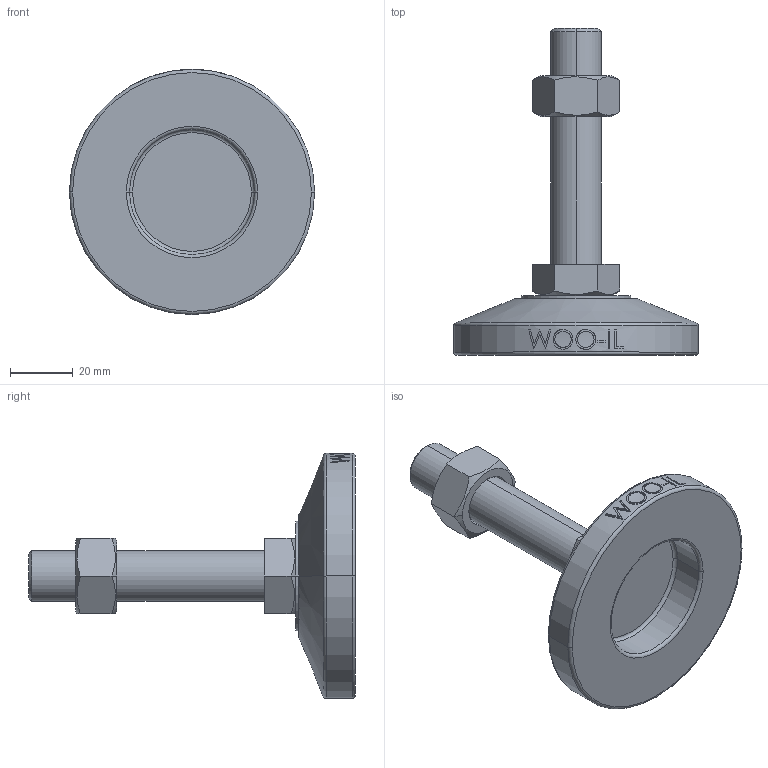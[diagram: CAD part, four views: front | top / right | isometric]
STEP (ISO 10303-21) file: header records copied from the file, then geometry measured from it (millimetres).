
FILE_DESCRIPTION (( 'STEP AP214' ), '1' );
FILE_NAME ('MFT78-M16-75.step', '2021-03-29T04:44:10', ( '' ), ( '' ), 'SwSTEP 2.0', 'SolidWorks 2019', '' );
FILE_SCHEMA (( 'AUTOMOTIVE_DESIGN' ));
Length unit declared in the file: millimetre
Products named in the file (2): MFT78-M16-75
Bounding box: 78 x 104 x 78 mm (x, y, z)
Volume: 80435.2 mm3; surface area: 21350.4 mm2
Topology: 3 solids, 3 shells, 106 faces, 243 edges, 154 vertices
Faces by surface type: plane 48, cylinder 18, bspline 16, cone 14, torus 10
Entity records: 4506 total; most frequent: CARTESIAN_POINT 2163, ORIENTED_EDGE 486, DIRECTION 439, EDGE_CURVE 243, AXIS2_PLACEMENT_3D 170, VERTEX_POINT 154, EDGE_LOOP 119, ADVANCED_FACE 106
